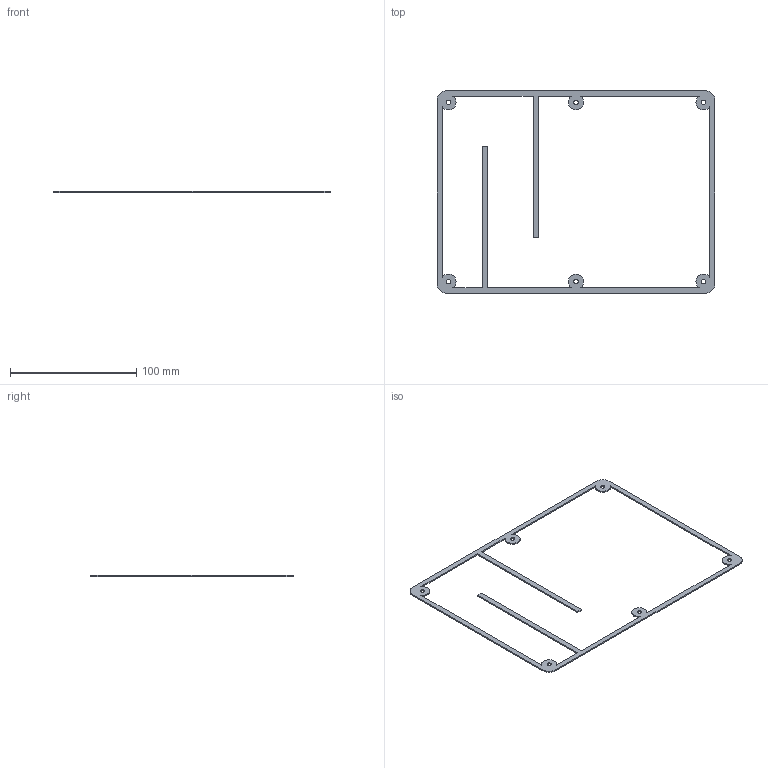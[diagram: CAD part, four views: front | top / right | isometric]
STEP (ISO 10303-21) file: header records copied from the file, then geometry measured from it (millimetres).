
FILE_DESCRIPTION(('FreeCAD Model'),'2;1');
FILE_NAME('Open CASCADE Shape Model','2026-10-19T19:41:49',('FreeCAD'),( 'FreeCAD'),'Open CASCADE STEP processor 7.8','FreeCAD','Unknown');
FILE_SCHEMA(('AUTOMOTIVE_DESIGN { 1 0 10303 214 1 1 1 1 }'));
Length unit declared in the file: millimetre
Products named in the file (1): Open CASCADE STEP translator 7.8 3
Bounding box: 220 x 160 x 1 mm (x, y, z)
Volume: 4410.7 mm3; surface area: 10877.9 mm2
Topology: 1 solids, 1 shells, 36 faces, 110 edges, 76 vertices
Faces by surface type: plane 20, cylinder 16
Full cylindrical faces by diameter (mm): 3.5 x6
Entity records: 1296 total; most frequent: DIRECTION 224, CARTESIAN_POINT 223, ORIENTED_EDGE 220, EDGE_CURVE 110, AXIS2_PLACEMENT_3D 77, VERTEX_POINT 76, LINE 70, VECTOR 70
